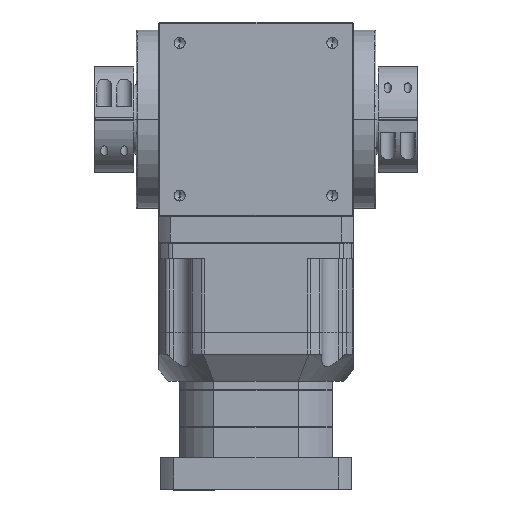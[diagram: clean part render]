
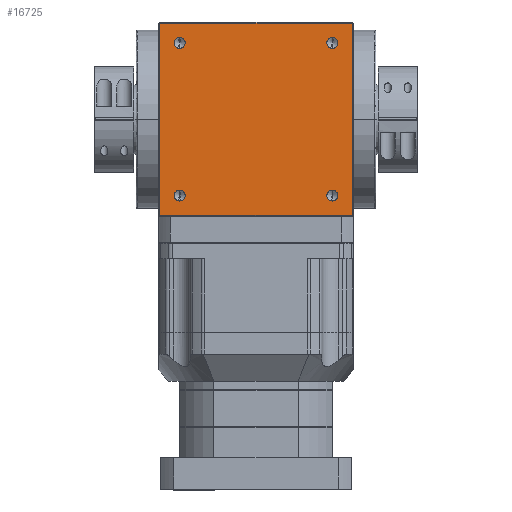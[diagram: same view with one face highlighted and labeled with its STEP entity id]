
A CAD part, top view. The second image highlights one B-rep face of the part: STEP entity #16725.
In plain terms, the highlighted planar face has unit normal (0, 0, 1).
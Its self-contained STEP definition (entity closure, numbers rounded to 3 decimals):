
#930 = CIRCLE ( 'NONE', #9169, 5.1 ) ;
#1956 = DIRECTION ( 'NONE',  ( -1., 0., 0. ) ) ;
#2092 = DIRECTION ( 'NONE',  ( 0., 0., -1. ) ) ;
#2145 = CARTESIAN_POINT ( 'NONE',  ( 0., 0., 90. ) ) ;
#2263 = VECTOR ( 'NONE', #18144, 1000. ) ;
#2488 = LINE ( 'NONE', #18571, #2263 ) ;
#2661 = FACE_BOUND ( 'NONE', #23369, .T. ) ;
#2940 = PLANE ( 'NONE',  #4219 ) ;
#3593 = VECTOR ( 'NONE', #26801, 1000. ) ;
#3973 = LINE ( 'NONE', #26707, #3593 ) ;
#4116 = CIRCLE ( 'NONE', #26371, 5.1 ) ;
#4219 = AXIS2_PLACEMENT_3D ( 'NONE', #2145, #2092, #1956 ) ;
#4583 = FACE_BOUND ( 'NONE', #24376, .T. ) ;
#5681 = FACE_BOUND ( 'NONE', #21063, .T. ) ;
#5926 = ORIENTED_EDGE ( 'NONE', *, *, #42829, .T. ) ;
#6125 = CARTESIAN_POINT ( 'NONE',  ( 70.7, -70.7, 90. ) ) ;
#7347 = DIRECTION ( 'NONE',  ( 0., -1., 0. ) ) ;
#7389 = ORIENTED_EDGE ( 'NONE', *, *, #28126, .F. ) ;
#7917 = CARTESIAN_POINT ( 'NONE',  ( -89., -89., 90. ) ) ;
#8355 = EDGE_CURVE ( 'NONE', #43235, #17947, #4116, .T. ) ;
#8356 = ORIENTED_EDGE ( 'NONE', *, *, #24470, .T. ) ;
#8537 = DIRECTION ( 'NONE',  ( 0., 0., 1. ) ) ;
#8770 = AXIS2_PLACEMENT_3D ( 'NONE', #21083, #43516, #21033 ) ;
#8919 = AXIS2_PLACEMENT_3D ( 'NONE', #32184, #32174, #32112 ) ;
#9153 = AXIS2_PLACEMENT_3D ( 'NONE', #38653, #38562, #38552 ) ;
#9169 = AXIS2_PLACEMENT_3D ( 'NONE', #23275, #23192, #23184 ) ;
#10815 = VERTEX_POINT ( 'NONE', #33309 ) ;
#10906 = CARTESIAN_POINT ( 'NONE',  ( 70.7, 65.6, 90. ) ) ;
#12239 = ORIENTED_EDGE ( 'NONE', *, *, #15180, .F. ) ;
#12613 = CARTESIAN_POINT ( 'NONE',  ( 89., -89., 90. ) ) ;
#14611 = CARTESIAN_POINT ( 'NONE',  ( -70.7, 65.6, 90. ) ) ;
#14878 = CARTESIAN_POINT ( 'NONE',  ( 70.7, -75.8, 90. ) ) ;
#15180 = EDGE_CURVE ( 'NONE', #10815, #21158, #40956, .T. ) ;
#15261 = FACE_BOUND ( 'NONE', #34287, .T. ) ;
#15311 = VECTOR ( 'NONE', #17399, 1000. ) ;
#15371 = CIRCLE ( 'NONE', #41996, 5.1 ) ;
#16725 = ADVANCED_FACE ( 'NONE', ( #5681, #2661, #4583, #15261, #40508 ), #2940, .F. ) ;
#16763 = VECTOR ( 'NONE', #19472, 1000. ) ;
#17399 = DIRECTION ( 'NONE',  ( 0., -1., 0. ) ) ;
#17947 = VERTEX_POINT ( 'NONE', #20879 ) ;
#17988 = DIRECTION ( 'NONE',  ( 0., -1., 0. ) ) ;
#18048 = DIRECTION ( 'NONE',  ( 0., 0., -1. ) ) ;
#18144 = DIRECTION ( 'NONE',  ( -1., 0., 0. ) ) ;
#18265 = CARTESIAN_POINT ( 'NONE',  ( -89., 89., 90. ) ) ;
#18482 = DIRECTION ( 'NONE',  ( 0., -1., 0. ) ) ;
#18571 = CARTESIAN_POINT ( 'NONE',  ( 0., -89., 90. ) ) ;
#18702 = EDGE_CURVE ( 'NONE', #43618, #29622, #3973, .T. ) ;
#18879 = CARTESIAN_POINT ( 'NONE',  ( -70.7, 70.7, 90. ) ) ;
#18933 = DIRECTION ( 'NONE',  ( 0., 0., -1. ) ) ;
#19127 = CARTESIAN_POINT ( 'NONE',  ( 70.7, 70.7, 90. ) ) ;
#19472 = DIRECTION ( 'NONE',  ( -1., 0., 0. ) ) ;
#19666 = CARTESIAN_POINT ( 'NONE',  ( 0., 89., 90. ) ) ;
#19998 = EDGE_CURVE ( 'NONE', #43469, #26614, #44164, .T. ) ;
#20191 = CARTESIAN_POINT ( 'NONE',  ( -70.7, -75.8, 90. ) ) ;
#20728 = CARTESIAN_POINT ( 'NONE',  ( 89., 0., 90. ) ) ;
#20799 = ORIENTED_EDGE ( 'NONE', *, *, #19998, .T. ) ;
#20879 = CARTESIAN_POINT ( 'NONE',  ( 70.7, -65.6, 90. ) ) ;
#21033 = DIRECTION ( 'NONE',  ( 0., -1., 0. ) ) ;
#21063 = EDGE_LOOP ( 'NONE', ( #22327, #7389 ) ) ;
#21083 = CARTESIAN_POINT ( 'NONE',  ( -70.7, 70.7, 90. ) ) ;
#21158 = VERTEX_POINT ( 'NONE', #20191 ) ;
#22327 = ORIENTED_EDGE ( 'NONE', *, *, #8355, .F. ) ;
#22425 = AXIS2_PLACEMENT_3D ( 'NONE', #27166, #27130, #27083 ) ;
#22583 = CIRCLE ( 'NONE', #8770, 5.1 ) ;
#22827 = EDGE_CURVE ( 'NONE', #21158, #10815, #43008, .T. ) ;
#23184 = DIRECTION ( 'NONE',  ( 0., -1., 0. ) ) ;
#23192 = DIRECTION ( 'NONE',  ( 0., 0., -1. ) ) ;
#23275 = CARTESIAN_POINT ( 'NONE',  ( 70.7, 70.7, 90. ) ) ;
#23369 = EDGE_LOOP ( 'NONE', ( #36892, #12239 ) ) ;
#24376 = EDGE_LOOP ( 'NONE', ( #20799, #5926 ) ) ;
#24470 = EDGE_CURVE ( 'NONE', #33164, #38019, #15371, .T. ) ;
#24647 = CARTESIAN_POINT ( 'NONE',  ( -70.7, 75.8, 90. ) ) ;
#26371 = AXIS2_PLACEMENT_3D ( 'NONE', #6125, #8537, #7347 ) ;
#26414 = ORIENTED_EDGE ( 'NONE', *, *, #30655, .F. ) ;
#26614 = VERTEX_POINT ( 'NONE', #34307 ) ;
#26707 = CARTESIAN_POINT ( 'NONE',  ( -89., 0., 90. ) ) ;
#26801 = DIRECTION ( 'NONE',  ( 0., 1., 0. ) ) ;
#27083 = DIRECTION ( 'NONE',  ( 0., -1., 0. ) ) ;
#27130 = DIRECTION ( 'NONE',  ( 0., 0., 1. ) ) ;
#27166 = CARTESIAN_POINT ( 'NONE',  ( 70.7, -70.7, 90. ) ) ;
#27981 = VERTEX_POINT ( 'NONE', #43632 ) ;
#28126 = EDGE_CURVE ( 'NONE', #17947, #43235, #42874, .T. ) ;
#29433 = ORIENTED_EDGE ( 'NONE', *, *, #42895, .T. ) ;
#29622 = VERTEX_POINT ( 'NONE', #18265 ) ;
#29693 = ORIENTED_EDGE ( 'NONE', *, *, #40549, .F. ) ;
#30149 = AXIS2_PLACEMENT_3D ( 'NONE', #19127, #18933, #18482 ) ;
#30655 = EDGE_CURVE ( 'NONE', #35998, #43618, #2488, .T. ) ;
#32112 = DIRECTION ( 'NONE',  ( 0., -1., 0. ) ) ;
#32174 = DIRECTION ( 'NONE',  ( 0., 0., 1. ) ) ;
#32184 = CARTESIAN_POINT ( 'NONE',  ( -70.7, -70.7, 90. ) ) ;
#32594 = LINE ( 'NONE', #20728, #15311 ) ;
#33164 = VERTEX_POINT ( 'NONE', #14611 ) ;
#33309 = CARTESIAN_POINT ( 'NONE',  ( -70.7, -65.6, 90. ) ) ;
#34287 = EDGE_LOOP ( 'NONE', ( #8356, #29433 ) ) ;
#34307 = CARTESIAN_POINT ( 'NONE',  ( 70.7, 75.8, 90. ) ) ;
#35120 = LINE ( 'NONE', #19666, #16763 ) ;
#35998 = VERTEX_POINT ( 'NONE', #12613 ) ;
#36892 = ORIENTED_EDGE ( 'NONE', *, *, #22827, .F. ) ;
#38019 = VERTEX_POINT ( 'NONE', #24647 ) ;
#38552 = DIRECTION ( 'NONE',  ( 0., -1., 0. ) ) ;
#38562 = DIRECTION ( 'NONE',  ( 0., 0., 1. ) ) ;
#38653 = CARTESIAN_POINT ( 'NONE',  ( -70.7, -70.7, 90. ) ) ;
#38919 = EDGE_LOOP ( 'NONE', ( #26414, #29693, #41167, #42687 ) ) ;
#40508 = FACE_OUTER_BOUND ( 'NONE', #38919, .T. ) ;
#40549 = EDGE_CURVE ( 'NONE', #27981, #35998, #32594, .T. ) ;
#40956 = CIRCLE ( 'NONE', #9153, 5.1 ) ;
#41167 = ORIENTED_EDGE ( 'NONE', *, *, #42959, .T. ) ;
#41996 = AXIS2_PLACEMENT_3D ( 'NONE', #18879, #18048, #17988 ) ;
#42687 = ORIENTED_EDGE ( 'NONE', *, *, #18702, .F. ) ;
#42829 = EDGE_CURVE ( 'NONE', #26614, #43469, #930, .T. ) ;
#42874 = CIRCLE ( 'NONE', #22425, 5.1 ) ;
#42895 = EDGE_CURVE ( 'NONE', #38019, #33164, #22583, .T. ) ;
#42959 = EDGE_CURVE ( 'NONE', #27981, #29622, #35120, .T. ) ;
#43008 = CIRCLE ( 'NONE', #8919, 5.1 ) ;
#43235 = VERTEX_POINT ( 'NONE', #14878 ) ;
#43469 = VERTEX_POINT ( 'NONE', #10906 ) ;
#43516 = DIRECTION ( 'NONE',  ( 0., 0., -1. ) ) ;
#43618 = VERTEX_POINT ( 'NONE', #7917 ) ;
#43632 = CARTESIAN_POINT ( 'NONE',  ( 89., 89., 90. ) ) ;
#44164 = CIRCLE ( 'NONE', #30149, 5.1 ) ;
